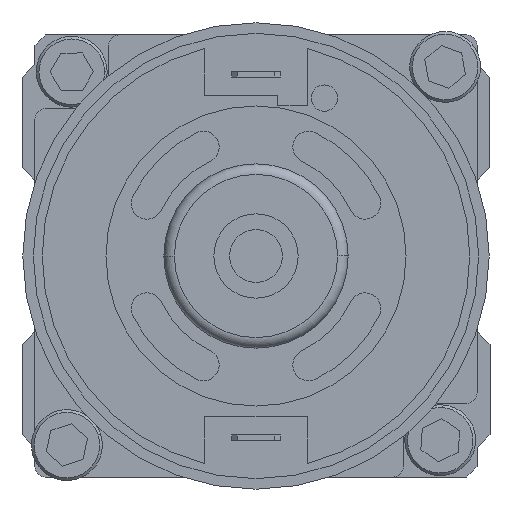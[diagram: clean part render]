
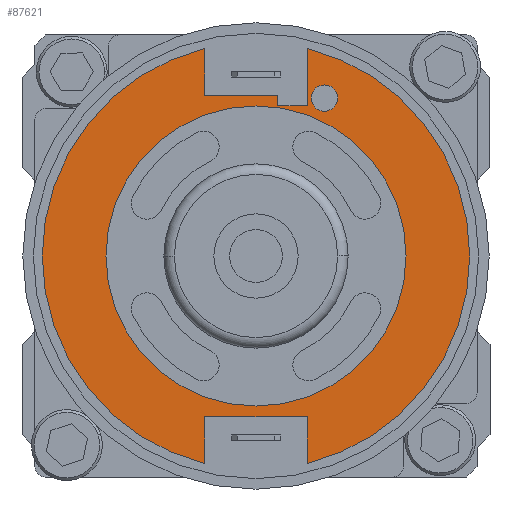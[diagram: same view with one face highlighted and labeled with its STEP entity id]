
A CAD part, left-side view. The second image highlights one B-rep face of the part: STEP entity #87621.
In plain terms, the highlighted planar face has unit normal (-1, 0, 0) as drawn and (1, 0, 0) by its records, which use the part's own axes.
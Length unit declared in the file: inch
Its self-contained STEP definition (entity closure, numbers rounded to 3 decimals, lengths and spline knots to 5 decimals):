
#682 = FACE_OUTER_BOUND ( 'NONE', #1568, .T. ) ;
#1568 = EDGE_LOOP ( 'NONE', ( #34693, #16596, #81255, #34790, #79345, #89781, #54837, #35176, #5329, #41697, #53642 ) ) ;
#1627 = CIRCLE ( 'NONE', #92967, 0.04921 ) ;
#2241 = DIRECTION ( 'NONE',  ( 0., 0., -1. ) ) ;
#3320 = EDGE_CURVE ( 'NONE', #19245, #94141, #70727, .T. ) ;
#5126 = VECTOR ( 'NONE', #28506, 39.37008 ) ;
#5288 = CARTESIAN_POINT ( 'NONE',  ( 2.49213, 0.77582, -0.19193 ) ) ;
#5329 = ORIENTED_EDGE ( 'NONE', *, *, #89278, .T. ) ;
#5835 = EDGE_CURVE ( 'NONE', #44845, #53276, #81698, .T. ) ;
#6260 = LINE ( 'NONE', #21874, #5126 ) ;
#6583 = EDGE_CURVE ( 'NONE', #94141, #19245, #1627, .T. ) ;
#7010 = DIRECTION ( 'NONE',  ( 0., 0., -1. ) ) ;
#7015 = EDGE_CURVE ( 'NONE', #46751, #12629, #30982, .T. ) ;
#8323 = CARTESIAN_POINT ( 'NONE',  ( 2.49213, 0., 0. ) ) ;
#10481 = PLANE ( 'NONE',  #83719 ) ;
#11346 = CARTESIAN_POINT ( 'NONE',  ( 2.49213, 0.77582, 0.19193 ) ) ;
#12040 = CARTESIAN_POINT ( 'NONE',  ( 2.49213, 0.59055, -0.30512 ) ) ;
#12569 = CARTESIAN_POINT ( 'NONE',  ( 2.49213, 0.77582, -0.19193 ) ) ;
#12629 = VERTEX_POINT ( 'NONE', #13511 ) ;
#13511 = CARTESIAN_POINT ( 'NONE',  ( 2.49213, -0.60039, -0.19193 ) ) ;
#14334 = VERTEX_POINT ( 'NONE', #91088 ) ;
#14533 = VECTOR ( 'NONE', #7010, 39.37008 ) ;
#15627 = CARTESIAN_POINT ( 'NONE',  ( 2.49213, -0.60039, -0.19193 ) ) ;
#16596 = ORIENTED_EDGE ( 'NONE', *, *, #35452, .T. ) ;
#17491 = DIRECTION ( 'NONE',  ( 0., 0., -1. ) ) ;
#17639 = VECTOR ( 'NONE', #38618, 39.37008 ) ;
#18148 = DIRECTION ( 'NONE',  ( 1., 0., 0. ) ) ;
#18208 = DIRECTION ( 'NONE',  ( 0., 1., 0. ) ) ;
#18331 = FACE_BOUND ( 'NONE', #72760, .T. ) ;
#19245 = VERTEX_POINT ( 'NONE', #12040 ) ;
#19993 = DIRECTION ( 'NONE',  ( 0., 0., 1. ) ) ;
#20311 = EDGE_LOOP ( 'NONE', ( #55232, #34293 ) ) ;
#20473 = VERTEX_POINT ( 'NONE', #53904 ) ;
#21468 = EDGE_CURVE ( 'NONE', #50767, #14334, #73696, .T. ) ;
#21874 = CARTESIAN_POINT ( 'NONE',  ( 2.49213, 0.56102, -0.08145 ) ) ;
#22602 = CARTESIAN_POINT ( 'NONE',  ( 2.49213, 0.60039, -0.08145 ) ) ;
#22725 = CIRCLE ( 'NONE', #87577, 0.56102 ) ;
#23591 = VERTEX_POINT ( 'NONE', #44070 ) ;
#25454 = CARTESIAN_POINT ( 'NONE',  ( 2.49213, -0.77582, 0.19193 ) ) ;
#27047 = LINE ( 'NONE', #63592, #34105 ) ;
#27524 = DIRECTION ( 'NONE',  ( 1., 0., 0. ) ) ;
#27898 = CARTESIAN_POINT ( 'NONE',  ( 2.49213, 0.56102, -0.19193 ) ) ;
#27981 = DIRECTION ( 'NONE',  ( 0., 0., -1. ) ) ;
#28411 = DIRECTION ( 'NONE',  ( 1., 0., 0. ) ) ;
#28506 = DIRECTION ( 'NONE',  ( 0., 1., 0. ) ) ;
#29010 = AXIS2_PLACEMENT_3D ( 'NONE', #64747, #72005, #79546 ) ;
#29369 = CARTESIAN_POINT ( 'NONE',  ( 2.49213, 0.59055, -0.25591 ) ) ;
#29994 = VERTEX_POINT ( 'NONE', #5288 ) ;
#30719 = LINE ( 'NONE', #87974, #68347 ) ;
#30982 = LINE ( 'NONE', #52031, #14533 ) ;
#31956 = CARTESIAN_POINT ( 'NONE',  ( 2.49213, 0., -0.79921 ) ) ;
#32205 = VERTEX_POINT ( 'NONE', #25454 ) ;
#33869 = CIRCLE ( 'NONE', #29010, 0.79921 ) ;
#33993 = EDGE_CURVE ( 'NONE', #14334, #91280, #30719, .T. ) ;
#34093 = CARTESIAN_POINT ( 'NONE',  ( 2.49213, 0.56102, -0.19193 ) ) ;
#34105 = VECTOR ( 'NONE', #18208, 39.37008 ) ;
#34293 = ORIENTED_EDGE ( 'NONE', *, *, #6583, .F. ) ;
#34693 = ORIENTED_EDGE ( 'NONE', *, *, #38281, .T. ) ;
#34790 = ORIENTED_EDGE ( 'NONE', *, *, #91194, .T. ) ;
#35176 = ORIENTED_EDGE ( 'NONE', *, *, #5835, .T. ) ;
#35452 = EDGE_CURVE ( 'NONE', #32205, #46751, #27047, .T. ) ;
#38196 = VECTOR ( 'NONE', #19993, 39.37008 ) ;
#38281 = EDGE_CURVE ( 'NONE', #91280, #32205, #72831, .T. ) ;
#38618 = DIRECTION ( 'NONE',  ( 0., -1., 0. ) ) ;
#39155 = CARTESIAN_POINT ( 'NONE',  ( 2.49213, 0., 0.56102 ) ) ;
#39706 = CARTESIAN_POINT ( 'NONE',  ( 2.49213, 0., 0. ) ) ;
#40457 = EDGE_CURVE ( 'NONE', #29994, #44845, #63209, .T. ) ;
#41697 = ORIENTED_EDGE ( 'NONE', *, *, #21468, .T. ) ;
#41777 = DIRECTION ( 'NONE',  ( 0., 0., -1. ) ) ;
#42000 = DIRECTION ( 'NONE',  ( 0., 1., 0. ) ) ;
#44070 = CARTESIAN_POINT ( 'NONE',  ( 2.49213, -0.77582, -0.19193 ) ) ;
#44845 = VERTEX_POINT ( 'NONE', #34093 ) ;
#46751 = VERTEX_POINT ( 'NONE', #72604 ) ;
#48366 = DIRECTION ( 'NONE',  ( 1., 0., 0. ) ) ;
#50767 = VERTEX_POINT ( 'NONE', #62666 ) ;
#51153 = DIRECTION ( 'NONE',  ( 0., 0., -1. ) ) ;
#52031 = CARTESIAN_POINT ( 'NONE',  ( 2.49213, -0.60039, 0.19193 ) ) ;
#53276 = VERTEX_POINT ( 'NONE', #60448 ) ;
#53642 = ORIENTED_EDGE ( 'NONE', *, *, #33993, .T. ) ;
#53904 = CARTESIAN_POINT ( 'NONE',  ( 2.49213, 0., -0.56102 ) ) ;
#54837 = ORIENTED_EDGE ( 'NONE', *, *, #40457, .T. ) ;
#55232 = ORIENTED_EDGE ( 'NONE', *, *, #3320, .F. ) ;
#55278 = LINE ( 'NONE', #15627, #17639 ) ;
#56253 = CARTESIAN_POINT ( 'NONE',  ( 2.49213, 0., 0. ) ) ;
#57564 = CARTESIAN_POINT ( 'NONE',  ( 2.49213, 0.59055, -0.25591 ) ) ;
#57921 = DIRECTION ( 'NONE',  ( 0., -1., 0. ) ) ;
#60448 = CARTESIAN_POINT ( 'NONE',  ( 2.49213, 0.56102, -0.08145 ) ) ;
#62666 = CARTESIAN_POINT ( 'NONE',  ( 2.49213, 0.60039, -0.08145 ) ) ;
#63209 = LINE ( 'NONE', #12569, #74878 ) ;
#63592 = CARTESIAN_POINT ( 'NONE',  ( 2.49213, -0.77582, 0.19193 ) ) ;
#64747 = CARTESIAN_POINT ( 'NONE',  ( 2.49213, 0., 0. ) ) ;
#65314 = CARTESIAN_POINT ( 'NONE',  ( 2.49213, 0., 0. ) ) ;
#66510 = DIRECTION ( 'NONE',  ( 0., 0., -1. ) ) ;
#68347 = VECTOR ( 'NONE', #42000, 39.37008 ) ;
#69454 = EDGE_CURVE ( 'NONE', #76200, #20473, #22725, .T. ) ;
#69777 = AXIS2_PLACEMENT_3D ( 'NONE', #70763, #18148, #17491 ) ;
#70727 = CIRCLE ( 'NONE', #75862, 0.04921 ) ;
#70763 = CARTESIAN_POINT ( 'NONE',  ( 2.49213, 0., 0. ) ) ;
#71091 = CIRCLE ( 'NONE', #78131, 0.79921 ) ;
#72005 = DIRECTION ( 'NONE',  ( 1., 0., 0. ) ) ;
#72604 = CARTESIAN_POINT ( 'NONE',  ( 2.49213, -0.60039, 0.19193 ) ) ;
#72760 = EDGE_LOOP ( 'NONE', ( #92364, #92145 ) ) ;
#72831 = CIRCLE ( 'NONE', #76706, 0.79921 ) ;
#73696 = LINE ( 'NONE', #22602, #91296 ) ;
#74878 = VECTOR ( 'NONE', #57921, 39.37008 ) ;
#75862 = AXIS2_PLACEMENT_3D ( 'NONE', #29369, #28411, #66510 ) ;
#75873 = DIRECTION ( 'NONE',  ( 0., 0., 1. ) ) ;
#76068 = DIRECTION ( 'NONE',  ( 0., 0., -1. ) ) ;
#76200 = VERTEX_POINT ( 'NONE', #39155 ) ;
#76706 = AXIS2_PLACEMENT_3D ( 'NONE', #8323, #76714, #76068 ) ;
#76714 = DIRECTION ( 'NONE',  ( 1., 0., 0. ) ) ;
#77224 = FACE_BOUND ( 'NONE', #20311, .T. ) ;
#78131 = AXIS2_PLACEMENT_3D ( 'NONE', #65314, #27524, #51153 ) ;
#78171 = DIRECTION ( 'NONE',  ( 1., 0., 0. ) ) ;
#79198 = EDGE_CURVE ( 'NONE', #20473, #76200, #82646, .T. ) ;
#79345 = ORIENTED_EDGE ( 'NONE', *, *, #83725, .T. ) ;
#79546 = DIRECTION ( 'NONE',  ( 0., 0., -1. ) ) ;
#81202 = DIRECTION ( 'NONE',  ( 1., 0., 0. ) ) ;
#81255 = ORIENTED_EDGE ( 'NONE', *, *, #7015, .T. ) ;
#81698 = LINE ( 'NONE', #27898, #38196 ) ;
#82646 = CIRCLE ( 'NONE', #69777, 0.56102 ) ;
#83719 = AXIS2_PLACEMENT_3D ( 'NONE', #39706, #78171, #2241 ) ;
#83725 = EDGE_CURVE ( 'NONE', #23591, #85032, #33869, .T. ) ;
#85032 = VERTEX_POINT ( 'NONE', #31956 ) ;
#87577 = AXIS2_PLACEMENT_3D ( 'NONE', #56253, #48366, #41777 ) ;
#87621 = ADVANCED_FACE ( 'NONE', ( #77224, #18331, #682 ), #10481, .T. ) ;
#87974 = CARTESIAN_POINT ( 'NONE',  ( 2.49213, 0.60039, 0.19193 ) ) ;
#88596 = CARTESIAN_POINT ( 'NONE',  ( 2.49213, 0.59055, -0.20669 ) ) ;
#88870 = EDGE_CURVE ( 'NONE', #85032, #29994, #71091, .T. ) ;
#89278 = EDGE_CURVE ( 'NONE', #53276, #50767, #6260, .T. ) ;
#89781 = ORIENTED_EDGE ( 'NONE', *, *, #88870, .T. ) ;
#91088 = CARTESIAN_POINT ( 'NONE',  ( 2.49213, 0.60039, 0.19193 ) ) ;
#91194 = EDGE_CURVE ( 'NONE', #12629, #23591, #55278, .T. ) ;
#91280 = VERTEX_POINT ( 'NONE', #11346 ) ;
#91296 = VECTOR ( 'NONE', #75873, 39.37008 ) ;
#92145 = ORIENTED_EDGE ( 'NONE', *, *, #69454, .F. ) ;
#92364 = ORIENTED_EDGE ( 'NONE', *, *, #79198, .F. ) ;
#92967 = AXIS2_PLACEMENT_3D ( 'NONE', #57564, #81202, #27981 ) ;
#94141 = VERTEX_POINT ( 'NONE', #88596 ) ;
